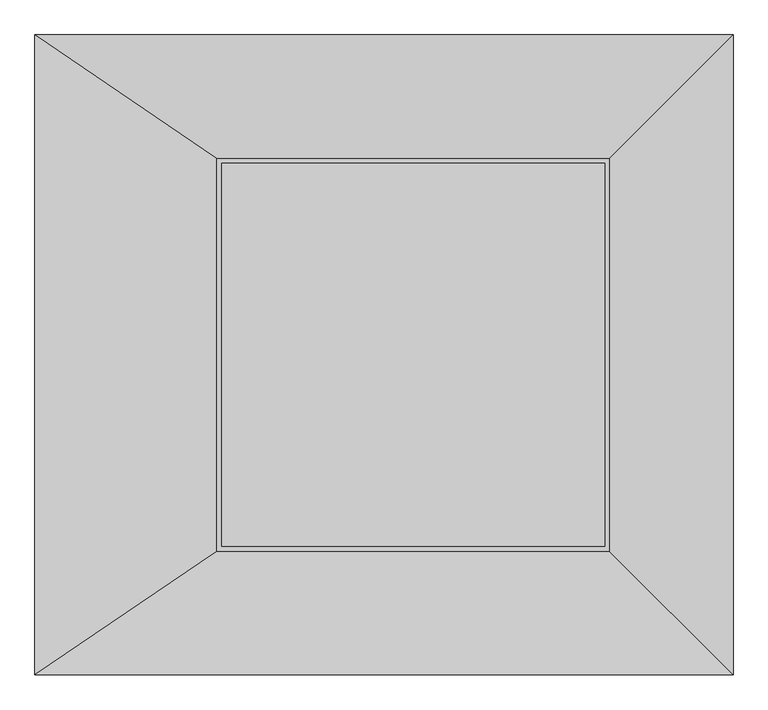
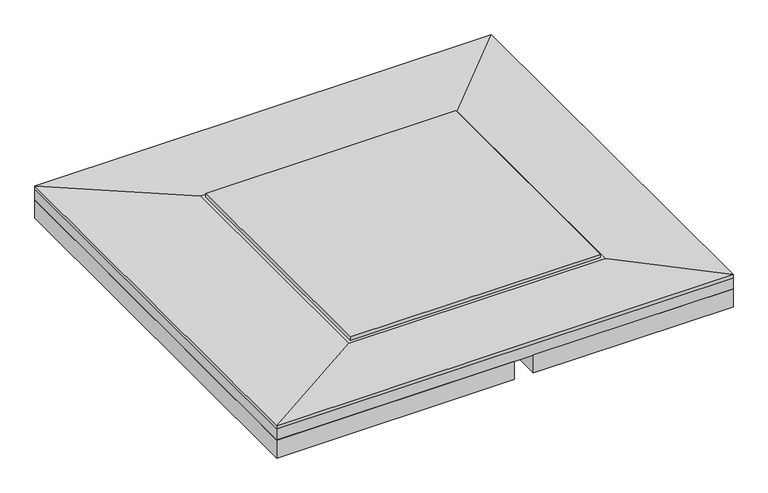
"""IFC4 building model written with IfcOpenShell, lengths in millimetres: sanitary terminal geometry, NLRS_PF_52_UN_Showerboard SQUARE_uitloop_Easydrain : Square Zijuitloop hoog 50 mm."""

from ifc_helpers import new_model, si_unit, frame, origin, place, context, project, spatial, polyline, circle_curve, outline, extrude, faceted_brep, source, transform, mapped, element, save
from ifc_brep_helpers import plane_surface, revolved_surface, advanced_brep


def sanitary_terminal_ca8cf7d3(model_context):
    return source(origin(), model_context, "Body", "SolidModel", [
        extrude(outline(polyline([(550.0, 550.0), (550.0, -550.0), (25.0, -550.0), (25.0, 0.0), (-25.0, 0.0), (-25.0, -550.0), (-650.0, -550.0), (-650.0, 550.0), (550.0, 550.0)])), frame((0.0, 0.0, -90.0), z_axis=(0.0, 0.0, 1.0), x_axis=(1.0, 0.0, 0.0)), (0.0, 0.0, 1.0), 50.0),
        extrude(outline(polyline([(329.0, 329.0), (329.0, -329.0), (-329.0, -329.0), (-329.0, 329.0), (329.0, 329.0)])), frame((0.0, 0.0, -9.0), z_axis=(0.0, 0.0, 1.0), x_axis=(1.0, 0.0, 0.0)), (0.0, 0.0, 1.0), 9.0),
        faceted_brep([(550.0, 550.0, -9.0), (550.0, -550.0, -9.0), (-650.0, -550.0, -9.0), (-650.0, 550.0, -9.0), (338.0, -338.0, -9.0), (338.0, 338.0, -9.0), (-338.0, 338.0, -9.0), (-338.0, -338.0, -9.0), (-650.0, 550.0, 0.0), (550.0, 550.0, 0.0), (-650.0, -550.0, 0.0), (550.0, -550.0, 0.0)], [[[0, 1, 2, 3], [4, 5, 6, 7]], [[0, 3, 8, 9]], [[3, 2, 10, 8]], [[2, 1, 11, 10]], [[1, 0, 9, 11]], [[9, 5, 4, 11]], [[11, 4, 7, 10]], [[10, 7, 6, 8]], [[5, 9, 8, 6]]]),
        advanced_brep(
        [(550.0, 550.0, -40.0), (550.0, -550.0, -40.0), (-650.0, -550.0, -40.0), (-650.0, 550.0, -40.0), (-51.0, 0.0, -40.0), (51.0, 0.0, -40.0), (-650.0, 550.0, 0.0), (550.0, 550.0, 0.0), (-650.0, -550.0, 0.0), (550.0, -550.0, 0.0), (51.0, 0.0, -9.0), (-51.0, 0.0, -9.0), (338.0, 338.0, -9.0), (-338.0, 338.0, -9.0), (-338.0, -338.0, -9.0), (338.0, -338.0, -9.0)],
        [
            (0, 1),
            (1, 2),
            (2, 3),
            (3, 0),
            (4, 5, circle_curve(frame((0.0, 0.0, -40.0), z_axis=(0.0, 0.0, 1.0), x_axis=(1.0, 0.0, 0.0)), 51.0)),
            (5, 4, circle_curve(frame((0.0, 0.0, -40.0), z_axis=(0.0, 0.0, 1.0), x_axis=(1.0, 0.0, 0.0)), 51.0)),
            (3, 6),
            (6, 7),
            (7, 0),
            (2, 8),
            (8, 6),
            (1, 9),
            (9, 8),
            (7, 9),
            (5, 10),
            (10, 11, circle_curve(frame((0.0, 0.0, -9.0), z_axis=(0.0, 0.0, 1.0), x_axis=(1.0, 0.0, 0.0)), 51.0)),
            (11, 4),
            (11, 10, circle_curve(frame((0.0, 0.0, -9.0), z_axis=(0.0, 0.0, 1.0), x_axis=(1.0, 0.0, 0.0)), 51.0)),
            (12, 13),
            (13, 14),
            (14, 15),
            (15, 12),
            (15, 9),
            (7, 12),
            (14, 8),
            (13, 6),
        ],
        [
            plane_surface(frame((-650.0, 550.0, -40.0), z_axis=(0.0, 0.0, -1.0), x_axis=(1.0, 0.0, 0.0))),
            plane_surface(frame((550.0, 550.0, 0.0), z_axis=(0.0, 1.0, 0.0), x_axis=(0.0, 0.0, -1.0))),
            plane_surface(frame((-650.0, 550.0, 0.0), z_axis=(-1.0, 0.0, 0.0), x_axis=(0.0, 0.0, -1.0))),
            plane_surface(frame((-650.0, -550.0, 0.0), z_axis=(0.0, -1.0, 0.0), x_axis=(0.0, 0.0, -1.0))),
            plane_surface(frame((550.0, -550.0, 0.0), z_axis=(1.0, 0.0, 0.0), x_axis=(0.0, 0.0, -1.0))),
            revolved_surface(polyline([(51.0, 0.0, -40.0), (51.0, 0.0, -9.0)]), (0.0, 0.0, 0.0), (0.0, 0.0, -1.0)),
            plane_surface(frame((0.0, 0.0, -9.0), z_axis=(0.0, 0.0, 1.0), x_axis=(-1.0, 0.0, 0.0))),
            plane_surface(frame((550.0, 0.0, 0.0), z_axis=(-0.04241462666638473, 0.0, 0.999100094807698), x_axis=(0.0, -1.0, 0.0))),
            plane_surface(frame((-50.0, -550.0, 0.0), z_axis=(0.0, 0.04241462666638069, 0.9991000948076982), x_axis=(-1.0, 0.0, 0.0))),
            plane_surface(frame((-650.0, 0.0, 0.0), z_axis=(0.028834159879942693, 0.0, 0.9995842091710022), x_axis=(0.0, 1.0, 0.0))),
            plane_surface(frame((-50.0, 550.0, 0.0), z_axis=(0.0, -0.04241462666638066, 0.9991000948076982), x_axis=(1.0, 0.0, 0.0))),
        ],
        [
            (0, [[1, 2, 3, 4], [5, 6]]),
            (1, [[-4, 7, 8, 9]]),
            (2, [[-3, 10, 11, -7]]),
            (3, [[-2, 12, 13, -10]]),
            (4, [[-1, -9, 14, -12]]),
            (5, [[-6, 15, 16, 17]]),
            (5, [[-5, -17, 18, -15]]),
            (6, [[19, 20, 21, 22], [-16, -18]]),
            (7, [[-22, 23, -14, 24]]),
            (8, [[-21, 25, -13, -23]]),
            (9, [[-20, 26, -11, -25]]),
            (10, [[-19, -24, -8, -26]]),
        ],
    ),
    ])


if __name__ == "__main__":
    model = new_model("IFC4")
    model_context = context("Model", 3, world=origin())
    ifc_project = project(units=[si_unit("LENGTHUNIT", "METRE", prefix="MILLI")], contexts=[model_context])
    site = spatial("IfcSite", under=ifc_project)
    building = spatial("IfcBuilding", under=site)
    placement = place(None, origin())
    sanitary_terminal_shape = sanitary_terminal_ca8cf7d3(model_context)
    element("IfcSanitaryTerminal", 1, ObjectType="NLRS_PF_52_UN_Showerboard SQUARE_uitloop_Easydrain : Square Zijuitloop hoog 50 mm", at=placement, inside=building, context=model_context, shape_type="MappedRepresentation", body=[
        mapped(sanitary_terminal_shape, transform((0.0, 0.0, 0.0), x_axis=(1.0, 0.0, 0.0), y_axis=(0.0, 1.0, 0.0), z_axis=(0.0, 0.0, 1.0))),
    ])
    save(model, "model.ifc")
